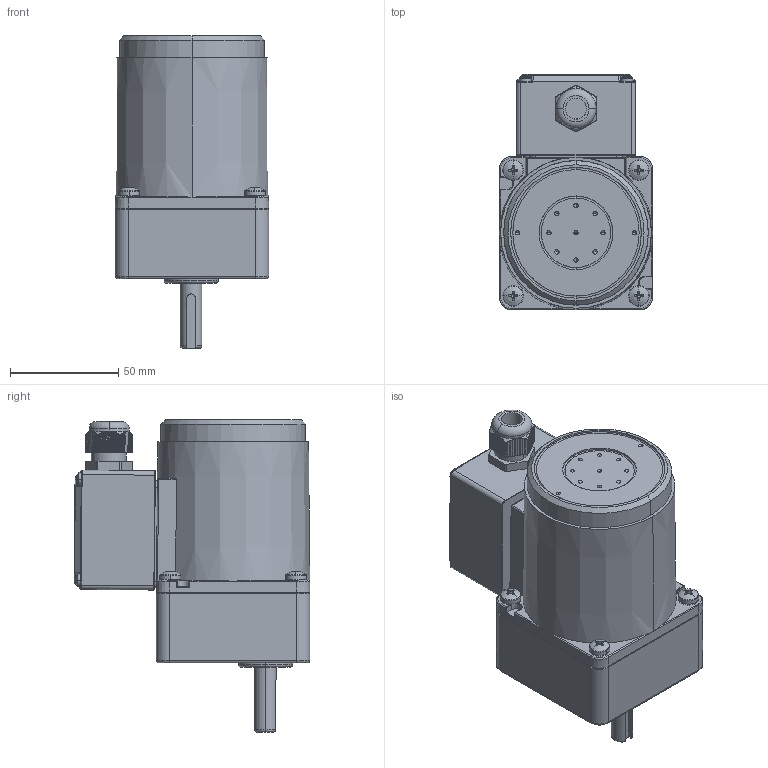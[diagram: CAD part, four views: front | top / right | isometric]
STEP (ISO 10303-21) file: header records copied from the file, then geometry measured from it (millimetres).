
FILE_DESCRIPTION (( 'STEP AP203' ), '1' );
FILE_NAME ('3IK15GN-CT(3GN3K-18K）.STEP', '2023-08-08T03:13:56', ( 'Windows User' ), ( 'P R C' ), 'SwSTEP 2.0', 'SolidWorks 2019', '' );
FILE_SCHEMA (( 'CONFIG_CONTROL_DESIGN' ));
Length unit declared in the file: millimetre
Products named in the file (17): ^___3IK15GN-CT(3GN3K-18K）(2)_3IK15GN-CT(3GN3K-18K）; 3IK15GN-CT(3GN3K-18K）; ^__3IK15GN-CT(3GN3K-18K）(2)_3IK15GN-CT(3GN3K-18K）; 3GN3K-18K^3IK15GN-CT(3GN3K-18K）(2)_3IK15GN-CT(3GN3K-18K）; ____53^3GN3K-18K_ASM_3GN3K-18K_3IK15GN-CT(3GN3K-18K）(2)_3IK15GN-CT(3GN3K-18K）; 3IK15GN-CT(3GN3K-18K）(2)^3IK15GN-CT(3GN3K-18K）; ^3IK15GN-CT(3GN3K-18K）(2)_3IK15GN-CT(3GN3K-18K）; PRT0004^3GN3K-18K_ASM_3GN3K-18K_3IK15GN-CT(3GN3K-18K｣ｩ(2)_3IK15GN-CT(3GN3K-18K｣ｩ; 复件 (6) ^__3IK15GN-CT(3GN3K-18K）(2)_3IK15GN-CT(3GN3K-18K）; 复件 (5) ^__3IK15GN-CT(3GN3K-18K）(2)_3IK15GN-CT(3GN3K-18K）; 复件 (2) ^___3IK15GN-CT(3GN3K-18K）(2)_3IK15GN-CT(3GN3K-18K）; ^_3IK15GN-CT(3GN3K-18K）(2)_3IK15GN-CT(3GN3K-18K）; 复件 (4) ^__3IK15GN-CT(3GN3K-18K）(2)_3IK15GN-CT(3GN3K-18K）; 复件 (3) ^__3IK15GN-CT(3GN3K-18K）(2)_3IK15GN-CT(3GN3K-18K）; 复件 (2) ^__3IK15GN-CT(3GN3K-18K）(2)_3IK15GN-CT(3GN3K-18K）; 3GN3K-18K_ASM^3GN3K-18K_3IK15GN-CT(3GN3K-18K｣ｩ(2)_3IK15GN-CT(3GN3K-18K｣ｩ
Assembly tree (19 placements, depth 6):
  3IK15GN-CT(3GN3K-18K）
    3IK15GN-CT(3GN3K-18K）(2)^3IK15GN-CT(3GN3K-18K）
      ^3IK15GN-CT(3GN3K-18K）(2)_3IK15GN-CT(3GN3K-18K）
        ^_3IK15GN-CT(3GN3K-18K）(2)_3IK15GN-CT(3GN3K-18K）
          ^__3IK15GN-CT(3GN3K-18K）(2)_3IK15GN-CT(3GN3K-18K）
            ^___3IK15GN-CT(3GN3K-18K）(2)_3IK15GN-CT(3GN3K-18K）
            复件 (2) ^___3IK15GN-CT(3GN3K-18K）(2)_3IK15GN-CT(3GN3K-18K）  x4
          ^__3IK15GN-CT(3GN3K-18K）(2)_3IK15GN-CT(3GN3K-18K）
          复件 (2) ^__3IK15GN-CT(3GN3K-18K）(2)_3IK15GN-CT(3GN3K-18K）
          复件 (3) ^__3IK15GN-CT(3GN3K-18K）(2)_3IK15GN-CT(3GN3K-18K）
          复件 (4) ^__3IK15GN-CT(3GN3K-18K）(2)_3IK15GN-CT(3GN3K-18K）
          复件 (5) ^__3IK15GN-CT(3GN3K-18K）(2)_3IK15GN-CT(3GN3K-18K）
          复件 (6) ^__3IK15GN-CT(3GN3K-18K）(2)_3IK15GN-CT(3GN3K-18K）
      3GN3K-18K^3IK15GN-CT(3GN3K-18K）(2)_3IK15GN-CT(3GN3K-18K）
        3GN3K-18K_ASM^3GN3K-18K_3IK15GN-CT(3GN3K-18K｣ｩ(2)_3IK15GN-CT(3GN3K-18K｣ｩ
          PRT0004^3GN3K-18K_ASM_3GN3K-18K_3IK15GN-CT(3GN3K-18K｣ｩ(2)_3IK15GN-CT(3GN3K-18K｣ｩ
          ____53^3GN3K-18K_ASM_3GN3K-18K_3IK15GN-CT(3GN3K-18K）(2)_3IK15GN-CT(3GN3K-18K）
Bounding box: 70.8 x 108.75 x 144 mm (x, y, z)
Volume: 586697.1 mm3; surface area: 73569.1 mm2
Topology: 13 solids, 13 shells, 1814 faces, 4675 edges, 2883 vertices
Faces by surface type: cone 746, cylinder 606, plane 279, torus 107, bspline 51, sphere 25
Entity records: 47954 total; most frequent: CARTESIAN_POINT 14796, DIRECTION 6960, ORIENTED_EDGE 6520, EDGE_CURVE 3260, AXIS2_PLACEMENT_3D 2909, VERTEX_POINT 2028, CIRCLE 1640, EDGE_LOOP 1350
